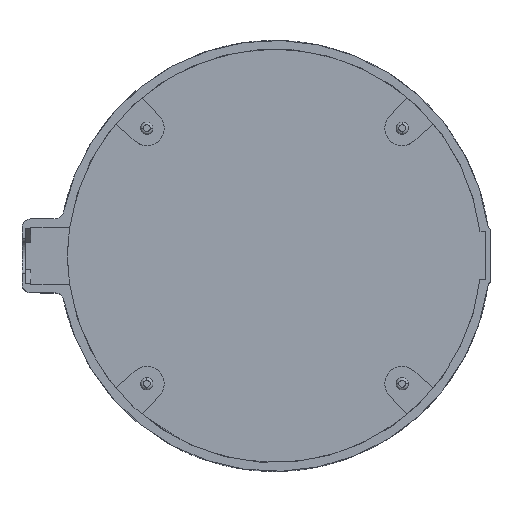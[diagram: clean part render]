
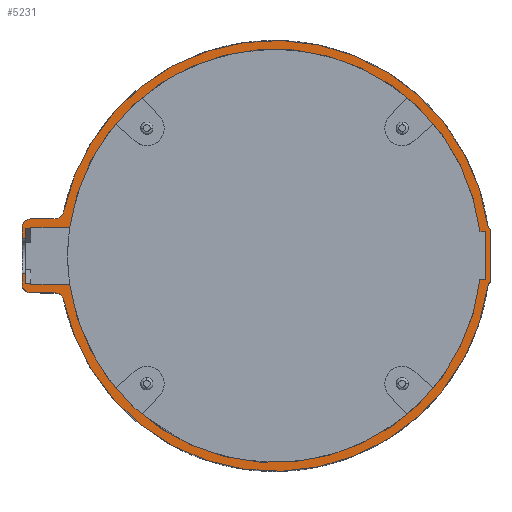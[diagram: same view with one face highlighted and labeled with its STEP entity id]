
A CAD part, top view. The second image highlights one B-rep face of the part: STEP entity #5231.
In plain terms, the highlighted planar face has unit normal (0, 0, 1).
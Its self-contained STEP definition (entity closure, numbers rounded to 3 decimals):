
#346=DIRECTION('',(0.,1.,0.));
#347=VECTOR('',#346,12.);
#348=CARTESIAN_POINT('',(49.5,-6.,21.));
#349=LINE('',#348,#347);
#1572=DIRECTION('',(0.,1.,0.));
#1573=VECTOR('',#1572,0.149);
#1574=CARTESIAN_POINT('',(-56.,6.351,21.));
#1575=LINE('',#1574,#1573);
#1600=DIRECTION('',(0.,1.,0.));
#1601=VECTOR('',#1600,0.149);
#1602=CARTESIAN_POINT('',(-56.,-6.5,21.));
#1603=LINE('',#1602,#1601);
#1641=DIRECTION('',(0.,1.,0.));
#1642=VECTOR('',#1641,2.5);
#1643=CARTESIAN_POINT('',(-58.,-6.5,21.));
#1644=LINE('',#1643,#1642);
#1645=DIRECTION('',(-1.,0.,0.));
#1646=VECTOR('',#1645,0.8);
#1647=CARTESIAN_POINT('',(-57.2,-4.,21.));
#1648=LINE('',#1647,#1646);
#1649=DIRECTION('',(0.,1.,0.));
#1650=VECTOR('',#1649,2.351);
#1651=CARTESIAN_POINT('',(-57.2,-6.351,21.));
#1652=LINE('',#1651,#1650);
#1653=DIRECTION('',(1.,0.,0.));
#1654=VECTOR('',#1653,1.2);
#1655=CARTESIAN_POINT('',(-57.2,-6.351,21.));
#1656=LINE('',#1655,#1654);
#1657=CARTESIAN_POINT('',(0.,0.,21.));
#1658=DIRECTION('',(0.,0.,1.));
#1659=DIRECTION('',(-0.991,-0.137,0.));
#1660=AXIS2_PLACEMENT_3D('',#1657,#1658,#1659);
#1662=CARTESIAN_POINT('',(0.,0.,21.));
#1663=DIRECTION('',(0.,0.,1.));
#1664=DIRECTION('',(0.993,0.116,0.));
#1665=AXIS2_PLACEMENT_3D('',#1662,#1663,#1664);
#1667=DIRECTION('',(1.,0.,0.));
#1668=VECTOR('',#1667,1.2);
#1669=CARTESIAN_POINT('',(-57.2,6.351,21.));
#1670=LINE('',#1669,#1668);
#1671=DIRECTION('',(0.,1.,0.));
#1672=VECTOR('',#1671,2.351);
#1673=CARTESIAN_POINT('',(-57.2,4.,21.));
#1674=LINE('',#1673,#1672);
#1675=DIRECTION('',(1.,0.,0.));
#1676=VECTOR('',#1675,0.8);
#1677=CARTESIAN_POINT('',(-58.,4.,21.));
#1678=LINE('',#1677,#1676);
#1679=DIRECTION('',(0.,1.,0.));
#1680=VECTOR('',#1679,2.5);
#1681=CARTESIAN_POINT('',(-58.,4.,21.));
#1682=LINE('',#1681,#1680);
#1683=CARTESIAN_POINT('',(-56.,6.5,21.));
#1684=DIRECTION('',(0.,0.,-1.));
#1685=DIRECTION('',(-1.,0.,0.));
#1686=AXIS2_PLACEMENT_3D('',#1683,#1684,#1685);
#1688=DIRECTION('',(1.,0.,0.));
#1689=VECTOR('',#1688,5.582);
#1690=CARTESIAN_POINT('',(-56.,8.5,21.));
#1691=LINE('',#1690,#1689);
#1692=CARTESIAN_POINT('',(-50.418,10.5,21.));
#1693=DIRECTION('',(0.,0.,1.));
#1694=DIRECTION('',(0.,-1.,0.));
#1695=AXIS2_PLACEMENT_3D('',#1692,#1693,#1694);
#1697=CARTESIAN_POINT('',(0.,0.,21.));
#1698=DIRECTION('',(0.,0.,-1.));
#1699=DIRECTION('',(-0.979,0.204,0.));
#1700=AXIS2_PLACEMENT_3D('',#1697,#1698,#1699);
#1702=CARTESIAN_POINT('',(50.736,7.239,21.));
#1703=DIRECTION('',(0.,0.,1.));
#1704=DIRECTION('',(-0.99,-0.141,0.));
#1705=AXIS2_PLACEMENT_3D('',#1702,#1703,#1704);
#1707=CARTESIAN_POINT('',(50.736,-7.239,21.));
#1708=DIRECTION('',(0.,0.,1.));
#1709=DIRECTION('',(-0.706,0.708,0.));
#1710=AXIS2_PLACEMENT_3D('',#1707,#1708,#1709);
#1712=CARTESIAN_POINT('',(0.,0.,21.));
#1713=DIRECTION('',(0.,0.,-1.));
#1714=DIRECTION('',(0.99,-0.141,0.));
#1715=AXIS2_PLACEMENT_3D('',#1712,#1713,#1714);
#1717=CARTESIAN_POINT('',(-50.418,-10.5,21.));
#1718=DIRECTION('',(0.,0.,1.));
#1719=DIRECTION('',(0.979,0.204,0.));
#1720=AXIS2_PLACEMENT_3D('',#1717,#1718,#1719);
#1722=DIRECTION('',(-1.,0.,0.));
#1723=VECTOR('',#1722,5.582);
#1724=CARTESIAN_POINT('',(-50.418,-8.5,21.));
#1725=LINE('',#1724,#1723);
#1726=CARTESIAN_POINT('',(-56.,-6.5,21.));
#1727=DIRECTION('',(0.,0.,-1.));
#1728=DIRECTION('',(0.,-1.,0.));
#1729=AXIS2_PLACEMENT_3D('',#1726,#1727,#1728);
#2080=DIRECTION('',(-1.,0.,0.));
#2081=VECTOR('',#2080,8.947);
#2082=CARTESIAN_POINT('',(-47.053,-6.5,21.));
#2083=LINE('',#2082,#2081);
#2088=DIRECTION('',(-1.,0.,0.));
#2089=VECTOR('',#2088,1.321);
#2090=CARTESIAN_POINT('',(48.5,-5.513,21.));
#2091=LINE('',#2090,#2089);
#2198=DIRECTION('',(0.,-1.,0.));
#2199=VECTOR('',#2198,11.027);
#2200=CARTESIAN_POINT('',(48.5,5.513,21.));
#2201=LINE('',#2200,#2199);
#2276=DIRECTION('',(1.,0.,0.));
#2277=VECTOR('',#2276,1.321);
#2278=CARTESIAN_POINT('',(47.179,5.513,21.));
#2279=LINE('',#2278,#2277);
#2344=DIRECTION('',(1.,0.,0.));
#2345=VECTOR('',#2344,8.947);
#2346=CARTESIAN_POINT('',(-56.,6.5,21.));
#2347=LINE('',#2346,#2345);
#3226=CARTESIAN_POINT('',(49.5,-6.,21.));
#3227=VERTEX_POINT('',#3226);
#3228=CARTESIAN_POINT('',(49.5,6.,21.));
#3229=VERTEX_POINT('',#3228);
#3542=CARTESIAN_POINT('',(49.004,-6.991,21.));
#3543=VERTEX_POINT('',#3542);
#3544=CARTESIAN_POINT('',(49.004,6.991,21.));
#3545=VERTEX_POINT('',#3544);
#3547=CARTESIAN_POINT('',(-48.46,10.092,21.));
#3549=VERTEX_POINT('',#3547);
#3572=CARTESIAN_POINT('',(-48.46,-10.092,21.));
#3573=VERTEX_POINT('',#3572);
#3668=CARTESIAN_POINT('',(-47.053,6.5,21.));
#3669=VERTEX_POINT('',#3668);
#3670=CARTESIAN_POINT('',(47.179,5.513,21.));
#3672=VERTEX_POINT('',#3670);
#3826=CARTESIAN_POINT('',(47.179,-5.513,21.));
#3827=VERTEX_POINT('',#3826);
#3828=CARTESIAN_POINT('',(-47.053,-6.5,21.));
#3829=VERTEX_POINT('',#3828);
#3842=CARTESIAN_POINT('',(-56.,-6.5,21.));
#3843=VERTEX_POINT('',#3842);
#3844=CARTESIAN_POINT('',(-56.,6.5,21.));
#3845=VERTEX_POINT('',#3844);
#3860=CARTESIAN_POINT('',(-58.,6.5,21.));
#3861=VERTEX_POINT('',#3860);
#3862=CARTESIAN_POINT('',(-58.,-6.5,21.));
#3863=VERTEX_POINT('',#3862);
#3877=CARTESIAN_POINT('',(-56.,8.5,21.));
#3878=VERTEX_POINT('',#3877);
#3880=CARTESIAN_POINT('',(-50.418,8.5,21.));
#3881=VERTEX_POINT('',#3880);
#3885=CARTESIAN_POINT('',(48.5,-5.513,21.));
#3886=VERTEX_POINT('',#3885);
#3889=CARTESIAN_POINT('',(-50.418,-8.5,21.));
#3890=VERTEX_POINT('',#3889);
#3891=CARTESIAN_POINT('',(-56.,-8.5,21.));
#3892=VERTEX_POINT('',#3891);
#3893=CARTESIAN_POINT('',(48.5,5.513,21.));
#3894=VERTEX_POINT('',#3893);
#4026=CARTESIAN_POINT('',(-56.,6.351,21.));
#4028=VERTEX_POINT('',#4026);
#4030=CARTESIAN_POINT('',(-56.,-6.351,21.));
#4032=VERTEX_POINT('',#4030);
#4034=CARTESIAN_POINT('',(-58.,4.,21.));
#4035=CARTESIAN_POINT('',(-57.2,4.,21.));
#4036=VERTEX_POINT('',#4034);
#4037=VERTEX_POINT('',#4035);
#4038=CARTESIAN_POINT('',(-57.2,-4.,21.));
#4039=CARTESIAN_POINT('',(-58.,-4.,21.));
#4040=VERTEX_POINT('',#4038);
#4041=VERTEX_POINT('',#4039);
#4051=CARTESIAN_POINT('',(-57.2,6.351,21.));
#4053=VERTEX_POINT('',#4051);
#4055=CARTESIAN_POINT('',(-57.2,-6.351,21.));
#4057=VERTEX_POINT('',#4055);
#5181=CARTESIAN_POINT('',(0.,0.,21.));
#5182=DIRECTION('',(0.,0.,1.));
#5183=DIRECTION('',(0.,1.,0.));
#5184=AXIS2_PLACEMENT_3D('',#5181,#5182,#5183);
#5185=PLANE('',#5184);
#5187=ORIENTED_EDGE('',*,*,#5186,.T.);
#5189=ORIENTED_EDGE('',*,*,#5188,.F.);
#5190=ORIENTED_EDGE('',*,*,#5138,.F.);
#5191=ORIENTED_EDGE('',*,*,#5176,.T.);
#5192=ORIENTED_EDGE('',*,*,#5109,.F.);
#5194=ORIENTED_EDGE('',*,*,#5193,.F.);
#5195=ORIENTED_EDGE('',*,*,#5050,.T.);
#5197=ORIENTED_EDGE('',*,*,#5196,.F.);
#5199=ORIENTED_EDGE('',*,*,#5198,.F.);
#5201=ORIENTED_EDGE('',*,*,#5200,.F.);
#5202=ORIENTED_EDGE('',*,*,#4798,.T.);
#5204=ORIENTED_EDGE('',*,*,#5203,.F.);
#5205=ORIENTED_EDGE('',*,*,#5087,.F.);
#5206=ORIENTED_EDGE('',*,*,#5121,.F.);
#5207=ORIENTED_EDGE('',*,*,#5146,.F.);
#5209=ORIENTED_EDGE('',*,*,#5208,.F.);
#5211=ORIENTED_EDGE('',*,*,#5210,.T.);
#5213=ORIENTED_EDGE('',*,*,#5212,.T.);
#5215=ORIENTED_EDGE('',*,*,#5214,.T.);
#5217=ORIENTED_EDGE('',*,*,#5216,.T.);
#5218=ORIENTED_EDGE('',*,*,#4488,.T.);
#5219=ORIENTED_EDGE('',*,*,#4742,.T.);
#5220=ORIENTED_EDGE('',*,*,#4091,.F.);
#5221=ORIENTED_EDGE('',*,*,#4472,.T.);
#5222=ORIENTED_EDGE('',*,*,#4531,.T.);
#5224=ORIENTED_EDGE('',*,*,#5223,.T.);
#5226=ORIENTED_EDGE('',*,*,#5225,.T.);
#5228=ORIENTED_EDGE('',*,*,#5227,.T.);
#5229=EDGE_LOOP('',(#5187,#5189,#5190,#5191,#5192,#5194,#5195,#5197,#5199,#5201,
#5202,#5204,#5205,#5206,#5207,#5209,#5211,#5213,#5215,#5217,#5218,#5219,#5220,
#5221,#5222,#5224,#5226,#5228));
#5230=FACE_OUTER_BOUND('',#5229,.F.);
#5231=ADVANCED_FACE('',(#5230),#5185,.T.);
#1661=CIRCLE('',#1660,47.5);
#1666=CIRCLE('',#1665,47.5);
#1687=CIRCLE('',#1686,2.);
#1696=CIRCLE('',#1695,2.);
#1701=CIRCLE('',#1700,49.5);
#1706=CIRCLE('',#1705,1.75);
#1711=CIRCLE('',#1710,1.75);
#1716=CIRCLE('',#1715,49.5);
#1721=CIRCLE('',#1720,2.);
#1730=CIRCLE('',#1729,2.);
#4091=EDGE_CURVE('',#3227,#3229,#349,.T.);
#4472=EDGE_CURVE('',#3227,#3543,#1711,.T.);
#4488=EDGE_CURVE('',#3549,#3545,#1701,.T.);
#4531=EDGE_CURVE('',#3543,#3573,#1716,.T.);
#4742=EDGE_CURVE('',#3545,#3229,#1706,.T.);
#4798=EDGE_CURVE('',#3672,#3669,#1666,.T.);
#5050=EDGE_CURVE('',#3829,#3827,#1661,.T.);
#5087=EDGE_CURVE('',#4028,#3845,#1575,.T.);
#5109=EDGE_CURVE('',#3843,#4032,#1603,.T.);
#5121=EDGE_CURVE('',#4053,#4028,#1670,.T.);
#5138=EDGE_CURVE('',#4057,#4040,#1652,.T.);
#5146=EDGE_CURVE('',#4037,#4053,#1674,.T.);
#5176=EDGE_CURVE('',#4057,#4032,#1656,.T.);
#5186=EDGE_CURVE('',#3863,#4041,#1644,.T.);
#5188=EDGE_CURVE('',#4040,#4041,#1648,.T.);
#5193=EDGE_CURVE('',#3829,#3843,#2083,.T.);
#5196=EDGE_CURVE('',#3886,#3827,#2091,.T.);
#5198=EDGE_CURVE('',#3894,#3886,#2201,.T.);
#5200=EDGE_CURVE('',#3672,#3894,#2279,.T.);
#5203=EDGE_CURVE('',#3845,#3669,#2347,.T.);
#5208=EDGE_CURVE('',#4036,#4037,#1678,.T.);
#5210=EDGE_CURVE('',#4036,#3861,#1682,.T.);
#5212=EDGE_CURVE('',#3861,#3878,#1687,.T.);
#5214=EDGE_CURVE('',#3878,#3881,#1691,.T.);
#5216=EDGE_CURVE('',#3881,#3549,#1696,.T.);
#5223=EDGE_CURVE('',#3573,#3890,#1721,.T.);
#5225=EDGE_CURVE('',#3890,#3892,#1725,.T.);
#5227=EDGE_CURVE('',#3892,#3863,#1730,.T.);
